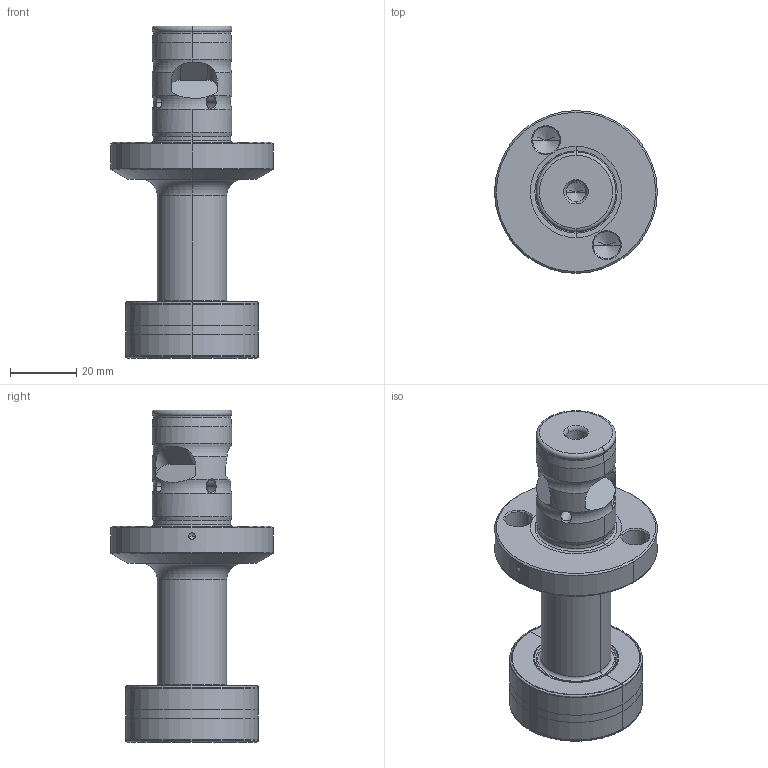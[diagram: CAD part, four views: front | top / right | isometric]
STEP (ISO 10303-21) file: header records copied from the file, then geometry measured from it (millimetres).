
FILE_DESCRIPTION((''),'2;1');
FILE_NAME('15T1E040017Z4R00','2015-10-31T',('schorn'),(''),'PRO/ENGINEER BY PARAMETRIC TECHNOLOGY CORPORATION, 2011490','PRO/ENGINEER BY PARAMETRIC TECHNOLOGY CORPORATION, 2011490','');
FILE_SCHEMA(('AUTOMOTIVE_DESIGN { 1 2 10303 214 0 1 1 1 }'));
Length unit declared in the file: millimetre
Products named in the file (3): NOCUT; CUT; 15T1E040017Z4R00
Assembly tree (2 placements, depth 2):
  15T1E040017Z4R00
    NOCUT
    CUT
Bounding box: 49 x 49 x 100 mm (x, y, z)
Volume: 74970.6 mm3; surface area: 20891.7 mm2
Topology: 2 solids, 2 shells, 153 faces, 394 edges, 254 vertices
Faces by surface type: cylinder 41, revolution 36, cone 35, torus 24, plane 17
Entity records: 8478 total; most frequent: CARTESIAN_POINT 3550, ORIENTED_EDGE 742, DIRECTION 726, PRESENTATION_STYLE_ASSIGNMENT 392, STYLED_ITEM 392, CURVE_STYLE 390, EDGE_CURVE 371, AXIS2_PLACEMENT_3D 295
